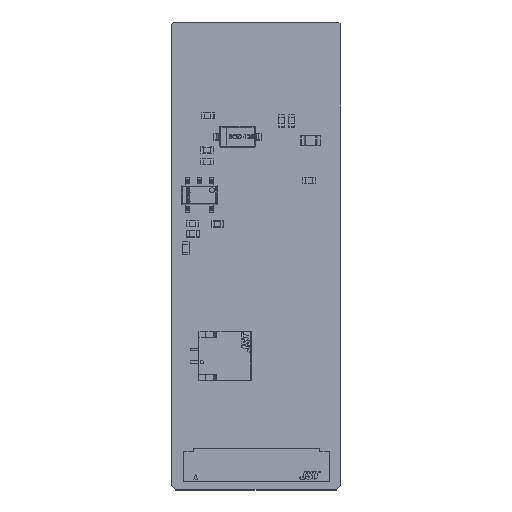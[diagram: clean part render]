
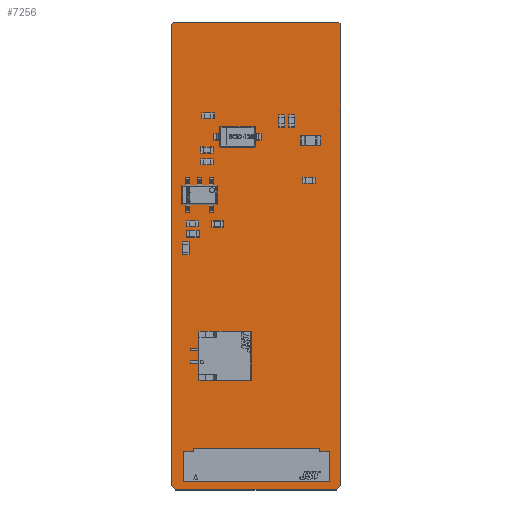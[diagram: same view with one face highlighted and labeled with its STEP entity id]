
A CAD part, top view. The second image highlights one B-rep face of the part: STEP entity #7256.
In plain terms, the highlighted planar face has unit normal (0, 0, 1).
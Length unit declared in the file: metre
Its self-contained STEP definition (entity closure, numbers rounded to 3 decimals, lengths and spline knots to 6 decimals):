
#7256=ADVANCED_FACE('0:31025',(#15378),#15379,.F.);
#15378=FACE_OUTER_BOUND('',#25526,.T.);
#15379=PLANE('',#25527);
#25526=EDGE_LOOP('',(#37566,#37567,#37568,#37569,#37570,#37571,#37572,#37573));
#25527=AXIS2_PLACEMENT_3D('',#37574,#37575,#37576);
#37566=ORIENTED_EDGE('',*,*,#61719,.F.);
#37567=ORIENTED_EDGE('',*,*,#61715,.F.);
#37568=ORIENTED_EDGE('',*,*,#61711,.F.);
#37569=ORIENTED_EDGE('',*,*,#61707,.F.);
#37570=ORIENTED_EDGE('',*,*,#61703,.F.);
#37571=ORIENTED_EDGE('',*,*,#61699,.F.);
#37572=ORIENTED_EDGE('',*,*,#61695,.F.);
#37573=ORIENTED_EDGE('',*,*,#61691,.F.);
#37574=CARTESIAN_POINT('',(0.006859,0.018977,0.0));
#37575=DIRECTION('',(-0.0,-0.0,-1.0));
#37576=DIRECTION('',(0.0,-1.0,0.0));
#61691=EDGE_CURVE('0:31031',#71259,#71261,#71262,.T.);
#61695=EDGE_CURVE('0:31040',#71261,#71267,#71268,.T.);
#61699=EDGE_CURVE('0:31049',#71267,#71273,#71274,.T.);
#61703=EDGE_CURVE('0:31058',#71273,#71279,#71280,.T.);
#61707=EDGE_CURVE('0:31067',#71279,#71285,#71286,.T.);
#61711=EDGE_CURVE('0:31076',#71285,#71291,#71292,.T.);
#61715=EDGE_CURVE('0:31085',#71291,#71297,#71298,.T.);
#61719=EDGE_CURVE('0:31094',#71297,#71259,#71303,.T.);
#71259=VERTEX_POINT('',#85128);
#71261=VERTEX_POINT('',#85131);
#71262=LINE('',#85132,#85133);
#71267=VERTEX_POINT('',#85140);
#71268=LINE('',#85141,#85142);
#71273=VERTEX_POINT('',#85149);
#71274=LINE('',#85150,#85151);
#71279=VERTEX_POINT('',#85158);
#71280=LINE('',#85159,#85160);
#71285=VERTEX_POINT('',#85167);
#71286=LINE('',#85168,#85169);
#71291=VERTEX_POINT('',#85176);
#71292=LINE('',#85177,#85178);
#71297=VERTEX_POINT('',#85185);
#71298=LINE('',#85186,#85187);
#71303=LINE('',#85194,#85195);
#85128=CARTESIAN_POINT('',(0.000356,0.0,0.0));
#85131=CARTESIAN_POINT('',(0.0,0.000356,0.0));
#85132=CARTESIAN_POINT('',(0.000356,0.0,0.0));
#85133=VECTOR('',#109155,0.001);
#85140=CARTESIAN_POINT('',(0.0,0.037694,0.0));
#85141=CARTESIAN_POINT('',(0.0,0.000356,0.0));
#85142=VECTOR('',#109158,0.001);
#85149=CARTESIAN_POINT('',(0.000178,0.037871,0.0));
#85150=CARTESIAN_POINT('',(0.0,0.037694,0.0));
#85151=VECTOR('',#109161,0.001);
#85158=CARTESIAN_POINT('',(0.013564,0.037871,0.0));
#85159=CARTESIAN_POINT('',(0.000178,0.037871,0.0));
#85160=VECTOR('',#109164,0.001);
#85167=CARTESIAN_POINT('',(0.013716,0.037719,0.0));
#85168=CARTESIAN_POINT('',(0.013564,0.037871,0.0));
#85169=VECTOR('',#109167,0.001);
#85176=CARTESIAN_POINT('',(0.013716,0.000356,0.0));
#85177=CARTESIAN_POINT('',(0.013716,0.037719,0.0));
#85178=VECTOR('',#109170,0.001);
#85185=CARTESIAN_POINT('',(0.01336,0.0,0.0));
#85186=CARTESIAN_POINT('',(0.013716,0.000356,0.0));
#85187=VECTOR('',#109173,0.001);
#85194=CARTESIAN_POINT('',(0.01336,0.0,0.0));
#85195=VECTOR('',#109176,0.001);
#109155=DIRECTION('',(-0.707,0.707,0.0));
#109158=DIRECTION('',(0.0,1.0,0.0));
#109161=DIRECTION('',(0.709,0.705,0.0));
#109164=DIRECTION('',(1.0,0.0,0.0));
#109167=DIRECTION('',(0.707,-0.707,0.0));
#109170=DIRECTION('',(0.0,-1.0,0.0));
#109173=DIRECTION('',(-0.707,-0.707,0.0));
#109176=DIRECTION('',(-1.0,0.0,0.0));
